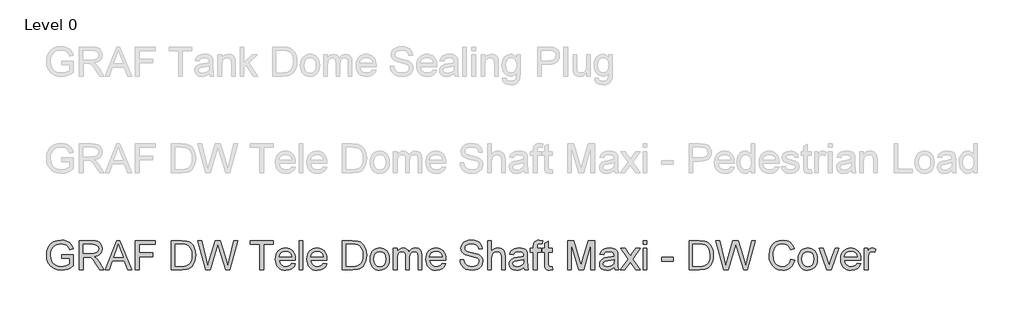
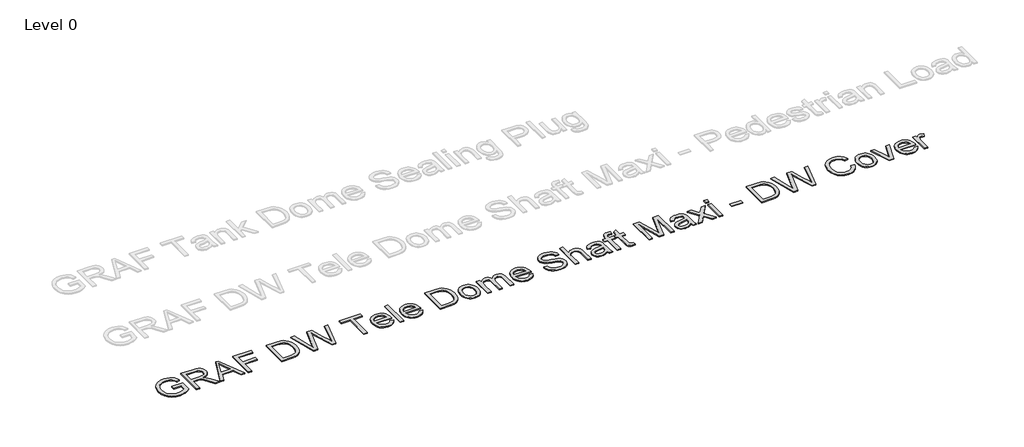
# One storey, part 3 of 25: 1 proxy.
"""IFC4 building model written with IfcOpenShell, lengths in millimetres."""

from ifc_helpers import new_model, si_unit, origin, origin_with_axes, place, context, project, spatial, polyline, outline, extrude, element, save

model = new_model("IFC4")

# Units and contexts
model_context = context("Model", 3, world=origin())
ifc_project = project(units=[si_unit("LENGTHUNIT", "METRE", prefix="MILLI")], contexts=[model_context])

# Site, building, storey
site = spatial("IfcSite", under=ifc_project)
building = spatial("IfcBuilding", under=site)
storey = spatial("IfcBuildingStorey", under=building, Name="Level 0", Elevation=0.0)

# Proxy
placement = place(None, origin())
element("IfcBuildingElementProxy", 1, Name="300mm Arial", ObjectType="300mm Arial", at=placement, inside=storey, context=model_context, shape_type="SweptSolid", body=[
    extrude(outline(polyline([(-15240.9940387, -11083.2545597), (-15240.9940387, -11045.5834434), (-15118.5629107, -11045.5834434), (-15118.5629107, -11158.2289103), (-15148.3153671, -11178.9222726), (-15179.0059225, -11193.7663111), (-15210.5610007, -11202.7058436), (-15242.9070251, -11205.6856877), (-15285.1674693, -11200.949207), (-15323.3628175, -11186.739765), (-15355.0926395, -11163.5540022), (-15377.9565055, -11131.8885595), (-15391.7796715, -11093.9047435), (-15396.3873935, -11051.7638609), (-15391.7980656, -11009.3194757), (-15378.0300819, -10969.8365406), (-15355.6536596, -10936.717964), (-15325.2390156, -10913.3666543), (-15288.1932987, -10899.5158972), (-15245.9236575, -10894.8989782), (-15214.8928112, -10897.5753197), (-15186.9889618, -10905.6043443), (-15163.4904994, -10918.4066377), (-15145.6758138, -10935.4027859), (-15132.4964413, -10957.4113262), (-15122.9039183, -10985.2507962), (-15157.6319786, -10995.0364573), (-15165.3850917, -10975.1800266), (-15174.8120678, -10960.1980323), (-15187.2832674, -10948.9040551), (-15204.169051, -10940.1116754), (-15224.3013932, -10934.4554897), (-15246.5122687, -10932.5700945), (-15272.5123287, -10934.6026425), (-15294.7415982, -10940.7002866), (-15313.1173039, -10950.0996716), (-15327.5566722, -10962.0374423), (-15346.9440533, -10991.0633317), (-15355.7732212, -11019.50061), (-15358.7162772, -11050.2187566), (-15355.175413, -11086.2436009), (-15344.5528204, -11115.8856927), (-15327.1703961, -11138.9334997), (-15303.3500369, -11155.1754898), (-15275.4737787, -11164.804801), (-15245.9236575, -11168.0145714), (-15219.831627, -11165.5957473), (-15194.3833899, -11158.3392749), (-15172.2828791, -11148.3420817), (-15156.234027, -11137.701095), (-15156.234027, -11083.2545597), (-15240.9940387, -11083.2545597)])), origin_with_axes(), (0.0, 0.0, 1.0), 10.0),
    extrude(outline(polyline([(-15057.3473467, -11200.9767982), (-15057.3473467, -10899.6078677), (-14927.4850024, -10899.6078677), (-14892.5821982, -10901.6404158), (-14867.1891434, -10907.7380598), (-14848.6294968, -10918.9952489), (-14834.2269167, -10936.5064318), (-14824.9838815, -10958.2206666), (-14821.9028698, -10982.087011), (-14827.0072325, -11011.7750881), (-14842.3203206, -11036.3863935), (-14853.9200997, -11046.4157764), (-14868.3019865, -11054.4310054), (-14905.4120827, -11064.4190016), (-14884.0013506, -11080.532233), (-14853.467145, -11119.3069952), (-14803.2144645, -11200.9767982), (-14846.9924219, -11200.9767982), (-14886.2086426, -11138.5104354), (-14914.5355562, -11097.1604991), (-14934.4379722, -11077.6259652), (-14952.3538253, -11070.4522663), (-14974.2060158, -11069.1278911), (-15019.6762304, -11069.1278911), (-15019.6762304, -11200.9767982), (-15057.3473467, -11200.9767982)]), holes=[polyline([(-15019.6762304, -11031.4567748), (-14935.3576771, -11031.4567748), (-14911.1418448, -11030.1232026), (-14892.3522719, -11026.1224859), (-14878.2072092, -11019.1879103), (-14867.9249074, -11009.0527613), (-14861.6617165, -10996.7930938), (-14859.5739861, -10983.4849626), (-14863.5563087, -10965.109257), (-14875.5032765, -10950.3020067), (-14896.058683, -10940.5347397), (-14925.8663217, -10937.278984), (-15019.6762304, -10937.278984), (-15019.6762304, -11031.4567748)])]), origin_with_axes(), (0.0, 0.0, 1.0), 10.0),
    extrude(outline(polyline([(-14791.0743586, -11200.9767982), (-14670.7769462, -10899.6078677), (-14638.6976362, -10899.6078677), (-14518.4002238, -11200.9767982), (-14558.2050557, -11200.9767982), (-14592.7123868, -11106.7990074), (-14716.835772, -11106.7990074), (-14751.2695268, -11200.9767982), (-14791.0743586, -11200.9767982)]), holes=[polyline([(-14703.003409, -11069.1278911), (-14606.4711735, -11069.1278911), (-14633.6208647, -10995.0364573), (-14654.7372912, -10937.278984), (-14673.499273, -10988.5617342), (-14703.003409, -11069.1278911)])]), origin_with_axes(), (0.0, 0.0, 1.0), 10.0),
    extrude(outline(polyline([(-14478.1539335, -11200.9767982), (-14478.1539335, -10899.6078677), (-14275.6716834, -10899.6078677), (-14275.6716834, -10937.278984), (-14440.4828172, -10937.278984), (-14440.4828172, -11026.7478853), (-14299.2161311, -11026.7478853), (-14299.2161311, -11064.4190016), (-14440.4828172, -11064.4190016), (-14440.4828172, -11200.9767982), (-14478.1539335, -11200.9767982)])), origin_with_axes(), (0.0, 0.0, 1.0), 10.0),
    extrude(outline(polyline([(-14106.15166, -11200.9767982), (-14106.15166, -10899.6078677), (-14002.1882082, -10899.6078677), (-13948.4038605, -10903.9488753), (-13924.3811662, -10912.3181907), (-13904.1108683, -10925.5067602), (-13883.2703532, -10948.4625967), (-13868.4263147, -10977.0102395), (-13859.5419645, -11010.5978657), (-13856.5805145, -11048.6736522), (-13858.5854714, -11081.0196766), (-13864.600342, -11109.484546), (-13873.7606037, -11133.7187724), (-13885.2017337, -11153.372868), (-13898.3719091, -11168.8882911), (-13912.719307, -11180.7065002), (-13929.1912233, -11189.4712888), (-13948.7349543, -11195.8264502), (-13997.185013, -11200.9767982), (-14106.15166, -11200.9767982)]), holes=[polyline([(-14068.4805437, -11163.3056819), (-14001.8203262, -11163.3056819), (-13974.2475706, -11161.9445185), (-13953.3334792, -11157.8610283), (-13937.5513416, -11151.2943347), (-13925.3744476, -11142.4835609), (-13912.2870456, -11126.1771915), (-13902.4553993, -11105.069962), (-13896.3025729, -11079.069902), (-13894.2516308, -11048.085041), (-13898.2707416, -11007.0294103), (-13910.328074, -10976.7159339), (-13928.1427596, -10955.893813), (-13949.4339301, -10943.3122488), (-13971.1021796, -10938.7873002), (-14002.8503958, -10937.278984), (-14068.4805437, -10937.278984), (-14068.4805437, -11163.3056819)])]), origin_with_axes(), (0.0, 0.0, 1.0), 10.0),
    extrude(outline(polyline([(-13750.8512291, -11200.9767982), (-13833.0360668, -10899.6078677), (-13794.1877281, -10899.6078677), (-13746.5102215, -11097.6755339), (-13731.7949417, -11158.8175215), (-13716.0495923, -11104.7388682), (-13656.3055563, -10899.6078677), (-13600.3139166, -10899.6078677), (-13556.9038412, -11048.3057702), (-13538.3074064, -11103.4880695), (-13524.603802, -11158.8175215), (-13510.3299806, -11099.4413675), (-13462.2110157, -10899.6078677), (-13423.362677, -10899.6078677), (-13505.6210911, -11200.9767982), (-13545.8673814, -11200.9767982), (-13618.1194052, -10968.4753772), (-13628.1993719, -10936.0281853), (-13639.5301373, -10975.0972531), (-13705.3810145, -11200.9767982), (-13750.8512291, -11200.9767982)])), origin_with_axes(), (0.0, 0.0, 1.0), 10.0),
    extrude(outline(polyline([(-13192.6270896, -11200.9767982), (-13192.6270896, -10937.278984), (-13291.5137699, -10937.278984), (-13291.5137699, -10899.6078677), (-13056.069293, -10899.6078677), (-13056.069293, -10937.278984), (-13154.9559733, -10937.278984), (-13154.9559733, -11200.9767982), (-13192.6270896, -11200.9767982)])), origin_with_axes(), (0.0, 0.0, 1.0), 10.0),
    extrude(outline(polyline([(-12863.4462803, -11135.0523446), (-12826.510928, -11139.7612342), (-12839.8190592, -11167.5915071), (-12861.0550473, -11188.3952339), (-12889.7406459, -11201.3630743), (-12925.3976083, -11205.6856877), (-12948.7719106, -11203.8209859), (-12969.59863, -11198.2268803), (-12987.8777667, -11188.9033709), (-13003.6093205, -11175.8504579), (-13016.2598626, -11159.4314246), (-13025.2959641, -11140.0095545), (-13030.717625, -11117.5848477), (-13032.5248453, -11092.157304), (-13030.6992309, -11065.8675369), (-13025.2223877, -11042.6955698), (-13016.0943157, -11022.6414025), (-13003.3150149, -11005.7050351), (-12987.6248478, -10992.2497512), (-12969.7641769, -10982.638834), (-12949.7330023, -10976.8722838), (-12927.5313239, -10974.9501003), (-12906.0447161, -10976.8676852), (-12886.613649, -10982.6204399), (-12869.2381225, -10992.2083644), (-12853.9181366, -11005.6314587), (-12841.4124481, -11022.5310379), (-12832.4798134, -11042.548417), (-12827.1202325, -11065.6835959), (-12825.3337056, -11091.9365748), (-12825.5544348, -11102.0901179), (-12994.853729, -11102.0901179), (-12988.3330206, -11130.2882728), (-12973.1854795, -11151.0184232), (-12951.3240919, -11163.7655344), (-12924.6618443, -11168.0145714), (-12904.6122756, -11166.0464027), (-12887.726492, -11160.1418967), (-12874.0044936, -11149.9331713), (-12863.4462803, -11135.0523446)]), holes=[polyline([(-12994.853729, -11064.4190016), (-12863.0048219, -11064.4190016), (-12868.0999875, -11044.5165856), (-12878.0879837, -11030.2795524), (-12900.0505388, -11017.0358006), (-12927.6784767, -11012.6212166), (-12953.0715314, -11016.1436868), (-12974.0683963, -11026.7110971), (-12988.6641144, -11043.1830134), (-12994.853729, -11064.4190016)])]), origin_with_axes(), (0.0, 0.0, 1.0), 10.0),
    extrude(outline(polyline([(-12787.6625893, -11200.9767982), (-12787.6625893, -10899.6078677), (-12749.991473, -10899.6078677), (-12749.991473, -11200.9767982), (-12787.6625893, -11200.9767982)])), origin_with_axes(), (0.0, 0.0, 1.0), 10.0),
    extrude(outline(polyline([(-12538.5329022, -11135.0523446), (-12501.5975499, -11139.7612342), (-12514.905681, -11167.5915071), (-12536.1416692, -11188.3952339), (-12564.8272678, -11201.3630743), (-12600.4842302, -11205.6856877), (-12623.8585324, -11203.8209859), (-12644.6852519, -11198.2268803), (-12662.9643885, -11188.9033709), (-12678.6959423, -11175.8504579), (-12691.3464844, -11159.4314246), (-12700.3825859, -11140.0095545), (-12705.8042468, -11117.5848477), (-12707.6114672, -11092.157304), (-12705.7858527, -11065.8675369), (-12700.3090095, -11042.6955698), (-12691.1809375, -11022.6414025), (-12678.4016367, -11005.7050351), (-12662.7114696, -10992.2497512), (-12644.8507988, -10982.638834), (-12624.8196241, -10976.8722838), (-12602.6179457, -10974.9501003), (-12581.1313379, -10976.8676852), (-12561.7002708, -10982.6204399), (-12544.3247443, -10992.2083644), (-12529.0047585, -11005.6314587), (-12516.4990699, -11022.5310379), (-12507.5664352, -11042.548417), (-12502.2068544, -11065.6835959), (-12500.4203275, -11091.9365748), (-12500.6410567, -11102.0901179), (-12669.9403508, -11102.0901179), (-12663.4196425, -11130.2882728), (-12648.2721013, -11151.0184232), (-12626.4107138, -11163.7655344), (-12599.7484662, -11168.0145714), (-12579.6988974, -11166.0464027), (-12562.8131138, -11160.1418967), (-12549.0911154, -11149.9331713), (-12538.5329022, -11135.0523446)]), holes=[polyline([(-12669.9403508, -11064.4190016), (-12538.0914438, -11064.4190016), (-12543.1866094, -11044.5165856), (-12553.1746056, -11030.2795524), (-12575.1371607, -11017.0358006), (-12602.7650985, -11012.6212166), (-12628.1581532, -11016.1436868), (-12649.1550181, -11026.7110971), (-12663.7507363, -11043.1830134), (-12669.9403508, -11064.4190016)])]), origin_with_axes(), (0.0, 0.0, 1.0), 10.0),
    extrude(outline(polyline([(-12340.3180832, -11200.9767982), (-12340.3180832, -10899.6078677), (-12236.3546313, -10899.6078677), (-12182.5702836, -10903.9488753), (-12158.5475893, -10912.3181907), (-12138.2772914, -10925.5067602), (-12117.4367764, -10948.4625967), (-12102.5927379, -10977.0102395), (-12093.7083877, -11010.5978657), (-12090.7469376, -11048.6736522), (-12092.7518945, -11081.0196766), (-12098.7667651, -11109.484546), (-12107.9270268, -11133.7187724), (-12119.3681569, -11153.372868), (-12132.5383323, -11168.8882911), (-12146.8857301, -11180.7065002), (-12163.3576464, -11189.4712888), (-12182.9013774, -11195.8264502), (-12231.3514362, -11200.9767982), (-12340.3180832, -11200.9767982)]), holes=[polyline([(-12302.6469669, -11163.3056819), (-12235.9867493, -11163.3056819), (-12208.4139938, -11161.9445185), (-12187.4999024, -11157.8610283), (-12171.7177648, -11151.2943347), (-12159.5408707, -11142.4835609), (-12146.4534688, -11126.1771915), (-12136.6218224, -11105.069962), (-12130.4689961, -11079.069902), (-12128.4180539, -11048.085041), (-12132.4371647, -11007.0294103), (-12144.4944971, -10976.7159339), (-12162.3091827, -10955.893813), (-12183.6003532, -10943.3122488), (-12205.2686027, -10938.7873002), (-12237.0168189, -10937.278984), (-12302.6469669, -10937.278984), (-12302.6469669, -11163.3056819)])]), origin_with_axes(), (0.0, 0.0, 1.0), 10.0),
    extrude(outline(polyline([(-12053.0758213, -11090.317894), (-12051.0386748, -11061.6552881), (-12044.9272351, -11036.9566106), (-12034.7415024, -11016.2218617), (-12020.4814766, -10999.4510412), (-12006.1248817, -10988.7318796), (-11990.2783648, -10981.0753356), (-11972.9419257, -10976.4814091), (-11954.1155646, -10974.9501003), (-11933.3325312, -10976.8148022), (-11914.540659, -10982.4089078), (-11897.7399481, -10991.7324171), (-11882.9303986, -11004.7853302), (-11870.8431758, -11021.1261885), (-11862.2094452, -11040.3135338), (-11857.0292068, -11062.3473661), (-11855.3024607, -11087.2276853), (-11858.3558813, -11125.2850777), (-11867.516143, -11154.2557848), (-11882.5165313, -11175.9516255), (-11903.0903319, -11192.1844185), (-11927.5268934, -11202.3103704), (-11954.1155646, -11205.6856877), (-11975.2021007, -11203.8278836), (-11994.1687169, -11198.2544714), (-12011.015413, -11188.965451), (-12025.7421891, -11175.9608225), (-12037.7006532, -11159.461315), (-12046.2424133, -11139.6876578), (-12051.3674693, -11116.6398508), (-12053.0758213, -11090.317894)]), holes=[polyline([(-12015.404705, -11090.2443176), (-12011.0453034, -11124.3377815), (-11997.9670985, -11148.6271903), (-11978.2854117, -11163.1677261), (-11954.1155646, -11168.0145714), (-11930.0560821, -11163.140135), (-11910.4111836, -11148.5168257), (-11897.3329787, -11123.9055202), (-11892.973577, -11089.0670952), (-11897.3605698, -11055.9669127), (-11910.5215482, -11032.0085978), (-11930.1940379, -11017.4680619), (-11954.1155646, -11012.6212166), (-11978.2854117, -11017.4496678), (-11997.9670985, -11031.9350214), (-12011.0453034, -11056.1692478), (-12015.404705, -11090.2443176)])]), origin_with_axes(), (0.0, 0.0, 1.0), 10.0),
    extrude(outline(polyline([(-11812.9224549, -11200.9767982), (-11812.9224549, -10979.6589899), (-11775.2513386, -10979.6589899), (-11775.2513386, -11016.0793074), (-11763.9205731, -10999.3498737), (-11749.3524461, -10986.2440776), (-11732.0435982, -10977.7735947), (-11712.4906702, -10974.9501003), (-11691.5397906, -10977.828777), (-11674.7459775, -10986.4648068), (-11662.2012015, -11000.2879728), (-11653.997433, -11018.7280578), (-11640.2662375, -10999.5752014), (-11624.6036615, -10985.8945897), (-11607.0097051, -10977.6862227), (-11587.4843682, -10974.9501003), (-11559.1666517, -10979.50264), (-11538.2249691, -10993.1602591), (-11525.2847199, -11016.2908395), (-11520.9713035, -11049.2622634), (-11520.9713035, -11200.9767982), (-11558.6424198, -11200.9767982), (-11558.6424198, -11065.4490712), (-11562.1372988, -11033.9951606), (-11567.0485234, -11025.3223425), (-11574.7924394, -11018.5073286), (-11584.7528444, -11014.0927446), (-11596.3135361, -11012.6212166), (-11616.7217898, -11016.3920071), (-11633.359253, -11027.7043784), (-11644.423304, -11047.3308829), (-11648.111321, -11076.0440726), (-11648.111321, -11200.9767982), (-11685.7824373, -11200.9767982), (-11685.7824373, -11061.2552164), (-11687.9621382, -11039.9548489), (-11694.5012406, -11024.7613225), (-11706.00675, -11015.6562431), (-11723.0856717, -11012.6212166), (-11737.5986164, -11014.6445676), (-11750.9711269, -11020.7146205), (-11762.0075867, -11030.6842226), (-11769.5123794, -11044.406221), (-11773.8165988, -11063.4441143), (-11775.2513386, -11089.3614008), (-11775.2513386, -11200.9767982), (-11812.9224549, -11200.9767982)])), origin_with_axes(), (0.0, 0.0, 1.0), 10.0),
    extrude(outline(polyline([(-11309.5127327, -11135.0523446), (-11272.5773804, -11139.7612342), (-11285.8855115, -11167.5915071), (-11307.1214997, -11188.3952339), (-11335.8070983, -11201.3630743), (-11371.4640607, -11205.6856877), (-11394.8383629, -11203.8209859), (-11415.6650824, -11198.2268803), (-11433.944219, -11188.9033709), (-11449.6757728, -11175.8504579), (-11462.326315, -11159.4314246), (-11471.3624165, -11140.0095545), (-11476.7840774, -11117.5848477), (-11478.5912977, -11092.157304), (-11476.7656833, -11065.8675369), (-11471.2888401, -11042.6955698), (-11462.1607681, -11022.6414025), (-11449.3814672, -11005.7050351), (-11433.6913002, -10992.2497512), (-11415.8306293, -10982.638834), (-11395.7994546, -10976.8722838), (-11373.5977762, -10974.9501003), (-11352.1111685, -10976.8676852), (-11332.6801013, -10982.6204399), (-11315.3045748, -10992.2083644), (-11299.984589, -11005.6314587), (-11287.4789004, -11022.5310379), (-11278.5462657, -11042.548417), (-11273.1866849, -11065.6835959), (-11271.400158, -11091.9365748), (-11271.6208872, -11102.0901179), (-11440.9201814, -11102.0901179), (-11434.399473, -11130.2882728), (-11419.2519318, -11151.0184232), (-11397.3905443, -11163.7655344), (-11370.7282967, -11168.0145714), (-11350.6787279, -11166.0464027), (-11333.7929444, -11160.1418967), (-11320.0709459, -11149.9331713), (-11309.5127327, -11135.0523446)]), holes=[polyline([(-11440.9201814, -11064.4190016), (-11309.0712743, -11064.4190016), (-11314.1664399, -11044.5165856), (-11324.1544361, -11030.2795524), (-11346.1169912, -11017.0358006), (-11373.744929, -11012.6212166), (-11399.1379838, -11016.1436868), (-11420.1348486, -11026.7110971), (-11434.7305668, -11043.1830134), (-11440.9201814, -11064.4190016)])]), origin_with_axes(), (0.0, 0.0, 1.0), 10.0),
    extrude(outline(polyline([(-11125.4245823, -11097.3812283), (-11087.753466, -11097.3812283), (-11083.4308525, -11118.2861227), (-11075.6133601, -11135.0891328), (-11063.418072, -11148.4248552), (-11045.9620713, -11158.9278861), (-11024.6249156, -11165.7429001), (-11000.7861623, -11168.0145714), (-10979.7984945, -11166.2947231), (-10961.4227888, -11161.1351781), (-10946.5327651, -11152.9681978), (-10936.002143, -11142.2260435), (-10929.738952, -11129.8927997), (-10927.6512217, -11116.9525505), (-10929.2147202, -11104.3433951), (-10933.9052156, -11093.444891), (-10943.4333593, -11084.1466736), (-10959.5098025, -11076.3383782), (-11014.361008, -11061.9541922), (-11050.3674582, -11052.4352456), (-11073.4060682, -11043.3761514), (-11092.1588529, -11030.7026167), (-11105.44859, -11015.3435434), (-11113.3672499, -10997.6300253), (-11116.0068032, -10977.8931563), (-11112.7418505, -10955.8294336), (-11102.9469924, -10935.2556331), (-11086.8797462, -10917.8180265), (-11064.7976295, -10905.1628859), (-11038.2917317, -10897.4649551), (-11008.9531426, -10894.8989782), (-10977.1681382, -10897.5845168), (-10949.3562594, -10905.6411325), (-10926.5107875, -10918.9032784), (-10909.6250039, -10937.2054076), (-10898.938032, -10959.407086), (-10894.6889949, -10984.3678794), (-10932.3601112, -10984.3678794), (-10939.2762927, -10961.8902895), (-10953.6972669, -10945.6666935), (-10976.2300392, -10935.8442443), (-11007.4816146, -10932.5700945), (-11039.4689541, -10935.8074561), (-11061.4131151, -10945.5195407), (-11074.105044, -10959.8117562), (-11078.3356869, -10976.7895103), (-11075.3374487, -10991.2656668), (-11066.3427339, -11002.909132), (-11045.0791545, -11013.3201924), (-11004.8328643, -11023.9519821), (-10963.298987, -11034.0503429), (-10938.1726467, -11042.8611167), (-10916.6975353, -11056.5279328), (-10901.715541, -11073.3953223), (-10892.9139643, -11093.2793441), (-10889.9801054, -11115.9960573), (-10893.3554227, -11139.2186082), (-10903.4813746, -11161.0616017), (-10919.9440939, -11179.8603717), (-10942.3297133, -11193.9502521), (-10969.2494783, -11202.7518288), (-10999.3146343, -11205.6856877), (-11036.2223955, -11202.5219026), (-11066.6002513, -11193.0305471), (-11090.7976895, -11177.1748331), (-11109.1641981, -11154.9179724), (-11120.9548161, -11127.8050693), (-11125.4245823, -11097.3812283)])), origin_with_axes(), (0.0, 0.0, 1.0), 10.0),
    extrude(outline(polyline([(-10838.1823205, -11200.9767982), (-10838.1823205, -10899.6078677), (-10800.5112042, -10899.6078677), (-10800.5112042, -11010.4139247), (-10786.6742426, -10994.8985015), (-10771.1358268, -10983.8160564), (-10753.8959568, -10977.1665894), (-10734.9546326, -10974.9501003), (-10712.2011312, -10977.3689245), (-10692.6482032, -10984.6253968), (-10677.2523417, -10996.1493003), (-10666.9700399, -11011.3704179), (-10661.1758985, -11032.2845093), (-10659.244518, -11060.8873344), (-10659.244518, -11200.9767982), (-10696.9156343, -11200.9767982), (-10696.9156343, -11064.7868836), (-10699.9138726, -11041.2056477), (-10708.9085874, -11025.0556281), (-10723.403138, -11015.7298195), (-10742.9008837, -11012.6212166), (-10758.8209771, -11014.718144), (-10773.7661831, -11021.0089261), (-10786.1454122, -11030.8865577), (-10794.3675748, -11043.7440334), (-10798.9752968, -11060.8321521), (-10800.5112042, -11083.4017125), (-10800.5112042, -11200.9767982), (-10838.1823205, -11200.9767982)])), origin_with_axes(), (0.0, 0.0, 1.0), 10.0),
    extrude(outline(polyline([(-10466.1800469, -11172.7234609), (-10484.1786736, -11188.1561106), (-10502.7107291, -11198.2544714), (-10522.1992778, -11203.8278836), (-10543.0673839, -11205.6856877), (-10574.5488857, -11201.2159215), (-10597.7714366, -11187.8066228), (-10612.0912433, -11167.4443543), (-10616.8645122, -11142.1156789), (-10615.0618904, -11126.4990883), (-10609.6540251, -11112.3172373), (-10601.3123008, -11100.1771315), (-10590.7081023, -11090.685776), (-10564.3309633, -11078.324941), (-10531.7366185, -11072.6595583), (-10493.2193736, -11066.6998699), (-10466.4007761, -11059.710112), (-10466.1800469, -11051.3224025), (-10468.773615, -11034.5101954), (-10476.5543192, -11023.5105237), (-10493.9551376, -11015.3435434), (-10518.1985611, -11012.6212166), (-10540.6393628, -11014.4330355), (-10556.3111358, -11019.868492), (-10566.9981077, -11029.9208675), (-10574.4845063, -11045.5834434), (-10612.1556226, -11040.8745539), (-10605.6165202, -11020.2731621), (-10595.8584502, -11004.0863544), (-10581.9709049, -10991.7071252), (-10563.0433763, -10982.5284694), (-10539.8944017, -10976.8446926), (-10513.3425187, -10974.9501003), (-10487.8758876, -10976.6239634), (-10467.6883631, -10981.6455527), (-10452.4672456, -10989.1963306), (-10441.8998353, -10998.4577598), (-10434.8916832, -11009.9080869), (-10430.3483406, -11024.0255585), (-10428.5089306, -11056.9877853), (-10428.5089306, -11103.8559515), (-10426.5959443, -11169.3021584), (-10419.0911516, -11200.9767982), (-10456.7622679, -11200.9767982), (-10466.1800469, -11172.7234609)]), holes=[polyline([(-10466.1800469, -11097.3812283), (-10526.9541525, -11108.932723), (-10559.3645563, -11115.0395641), (-10574.0430479, -11124.972378), (-10579.1933959, -11139.4669286), (-10576.3882956, -11150.6689353), (-10567.972995, -11159.8475911), (-10554.1314349, -11165.9728263), (-10535.0475564, -11168.0145714), (-10514.8140467, -11165.7612942), (-10496.9349817, -11159.0014625), (-10482.4404311, -11149.0410575), (-10472.3604645, -11137.1860602), (-10467.8906982, -11124.972378), (-10466.4007761, -11108.0498062), (-10466.1800469, -11097.3812283)])]), origin_with_axes(), (0.0, 0.0, 1.0), 10.0),
    extrude(outline(polyline([(-10367.2933666, -11200.9767982), (-10367.2933666, -11017.3301062), (-10400.2555934, -11017.3301062), (-10400.2555934, -10979.6589899), (-10367.2933666, -10979.6589899), (-10367.2933666, -10957.365341), (-10363.3202411, -10925.9482186), (-10355.741872, -10913.4218366), (-10344.0432245, -10903.5074169), (-10327.6724758, -10897.0510879), (-10306.0778026, -10894.8989782), (-10271.7176243, -10899.0192565), (-10277.2358542, -10934.3359281), (-10298.9408919, -10932.5700945), (-10313.2606986, -10934.133593), (-10322.6692806, -10938.8240884), (-10327.8840079, -10947.782015), (-10329.6222503, -10962.1478069), (-10329.6222503, -10979.6589899), (-10287.2422445, -10979.6589899), (-10287.2422445, -11017.3301062), (-10329.6222503, -11017.3301062), (-10329.6222503, -11200.9767982), (-10367.2933666, -11200.9767982)])), origin_with_axes(), (0.0, 0.0, 1.0), 10.0),
    extrude(outline(polyline([(-10174.2288956, -11169.5596758), (-10169.520006, -11202.0804442), (-10197.6997669, -11205.6856877), (-10215.7811669, -11204.1221892), (-10229.264042, -11199.4316938), (-10238.7921857, -11192.2028126), (-10245.0093914, -11183.0241568), (-10248.430694, -11167.2604133), (-10249.5711282, -11140.276269), (-10249.5711282, -11017.3301062), (-10277.8244654, -11017.3301062), (-10277.8244654, -10979.6589899), (-10249.5711282, -10979.6589899), (-10249.5711282, -10925.8746422), (-10211.9000119, -10903.7281461), (-10211.9000119, -10979.6589899), (-10174.2288956, -10979.6589899), (-10174.2288956, -11017.3301062), (-10211.9000119, -11017.3301062), (-10211.9000119, -11139.172623), (-10209.9134491, -11158.5967923), (-10203.4755142, -11165.4761856), (-10190.6364325, -11168.0145714), (-10174.2288956, -11169.5596758)])), origin_with_axes(), (0.0, 0.0, 1.0), 10.0),
    extrude(outline(polyline([(-10014.1266513, -11200.9767982), (-10014.1266513, -10899.6078677), (-9949.3058437, -10899.6078677), (-9887.6488213, -11112.0229317), (-9875.2144099, -11156.3895004), (-9861.7499289, -11108.3441118), (-9801.1229761, -10899.6078677), (-9736.3021685, -10899.6078677), (-9736.3021685, -11200.9767982), (-9773.9732848, -11200.9767982), (-9773.9732848, -10937.278984), (-9849.6833994, -11200.9767982), (-9900.7454204, -11200.9767982), (-9976.455535, -10937.278984), (-9976.455535, -11200.9767982), (-10014.1266513, -11200.9767982)])), origin_with_axes(), (0.0, 0.0, 1.0), 10.0),
    extrude(outline(polyline([(-9533.8199184, -11172.7234609), (-9551.818545, -11188.1561106), (-9570.3506005, -11198.2544714), (-9589.8391492, -11203.8278836), (-9610.7072554, -11205.6856877), (-9642.1887571, -11201.2159215), (-9665.411308, -11187.8066228), (-9679.7311147, -11167.4443543), (-9684.5043836, -11142.1156789), (-9682.7017618, -11126.4990883), (-9677.2938965, -11112.3172373), (-9668.9521722, -11100.1771315), (-9658.3479737, -11090.685776), (-9631.9708347, -11078.324941), (-9599.3764899, -11072.6595583), (-9560.859245, -11066.6998699), (-9534.0406476, -11059.710112), (-9533.8199184, -11051.3224025), (-9536.4134864, -11034.5101954), (-9544.1941906, -11023.5105237), (-9561.595009, -11015.3435434), (-9585.8384325, -11012.6212166), (-9608.2792342, -11014.4330355), (-9623.9510072, -11019.868492), (-9634.6379791, -11029.9208675), (-9642.1243777, -11045.5834434), (-9679.795494, -11040.8745539), (-9673.2563916, -11020.2731621), (-9663.4983217, -11004.0863544), (-9649.6107763, -10991.7071252), (-9630.6832477, -10982.5284694), (-9607.5342731, -10976.8446926), (-9580.9823901, -10974.9501003), (-9555.515759, -10976.6239634), (-9535.3282345, -10981.6455527), (-9520.107117, -10989.1963306), (-9509.5397067, -10998.4577598), (-9502.5315547, -11009.9080869), (-9497.988212, -11024.0255585), (-9496.1488021, -11056.9877853), (-9496.1488021, -11103.8559515), (-9494.2358157, -11169.3021584), (-9486.731023, -11200.9767982), (-9524.4021393, -11200.9767982), (-9533.8199184, -11172.7234609)]), holes=[polyline([(-9533.8199184, -11097.3812283), (-9594.594024, -11108.932723), (-9627.0044277, -11115.0395641), (-9641.6829193, -11124.972378), (-9646.8332673, -11139.4669286), (-9644.0281671, -11150.6689353), (-9635.6128664, -11159.8475911), (-9621.7713064, -11165.9728263), (-9602.6874279, -11168.0145714), (-9582.4539181, -11165.7612942), (-9564.5748532, -11159.0014625), (-9550.0803025, -11149.0410575), (-9540.0003359, -11137.1860602), (-9535.5305696, -11124.972378), (-9534.0406476, -11108.0498062), (-9533.8199184, -11097.3812283)])]), origin_with_axes(), (0.0, 0.0, 1.0), 10.0),
    extrude(outline(polyline([(-9467.8954648, -11200.9767982), (-9387.4028843, -11089.7292828), (-9463.1865753, -10979.6589899), (-9417.8635135, -10979.6589899), (-9381.2960432, -11032.6339972), (-9364.2263186, -11057.6499729), (-9349.4374624, -11037.1957339), (-9307.7932205, -10979.6589899), (-9262.4701587, -10979.6589899), (-9342.0798225, -11089.7292828), (-9265.4132147, -11200.9767982), (-9310.7362765, -11200.9767982), (-9356.8686787, -11134.0958515), (-9365.3299646, -11121.8821692), (-9422.572403, -11200.9767982), (-9467.8954648, -11200.9767982)])), origin_with_axes(), (0.0, 0.0, 1.0), 10.0),
    extrude(outline(polyline([(-9232.4509879, -11200.9767982), (-9232.4509879, -10979.6589899), (-9194.7798716, -10979.6589899), (-9194.7798716, -11200.9767982), (-9232.4509879, -11200.9767982)])), origin_with_axes(), (0.0, 0.0, 1.0), 10.0),
    extrude(outline(polyline([(-9232.4509879, -10937.278984), (-9232.4509879, -10899.6078677), (-9194.7798716, -10899.6078677), (-9194.7798716, -10937.278984), (-9232.4509879, -10937.278984)])), origin_with_axes(), (0.0, 0.0, 1.0), 10.0),
    extrude(outline(polyline([(-9039.3865168, -11111.507897), (-9039.3865168, -11073.8367806), (-8921.6642784, -11073.8367806), (-8921.6642784, -11111.507897), (-9039.3865168, -11111.507897)])), origin_with_axes(), (0.0, 0.0, 1.0), 10.0),
    extrude(outline(polyline([(-8756.8531445, -11200.9767982), (-8756.8531445, -10899.6078677), (-8652.8896927, -10899.6078677), (-8599.105345, -10903.9488753), (-8575.0826507, -10912.3181907), (-8554.8123528, -10925.5067602), (-8533.9718378, -10948.4625967), (-8519.1277993, -10977.0102395), (-8510.2434491, -11010.5978657), (-8507.281999, -11048.6736522), (-8509.2869559, -11081.0196766), (-8515.3018265, -11109.484546), (-8524.4620882, -11133.7187724), (-8535.9032182, -11153.372868), (-8549.0733937, -11168.8882911), (-8563.4207915, -11180.7065002), (-8579.8927078, -11189.4712888), (-8599.4364388, -11195.8264502), (-8647.8864976, -11200.9767982), (-8756.8531445, -11200.9767982)]), holes=[polyline([(-8719.1820282, -11163.3056819), (-8652.5218107, -11163.3056819), (-8624.9490552, -11161.9445185), (-8604.0349638, -11157.8610283), (-8588.2528262, -11151.2943347), (-8576.0759321, -11142.4835609), (-8562.9885301, -11126.1771915), (-8553.1568838, -11105.069962), (-8547.0040574, -11079.069902), (-8544.9531153, -11048.085041), (-8548.9722261, -11007.0294103), (-8561.0295585, -10976.7159339), (-8578.8442441, -10955.893813), (-8600.1354146, -10943.3122488), (-8621.8036641, -10938.7873002), (-8653.5518803, -10937.278984), (-8719.1820282, -10937.278984), (-8719.1820282, -11163.3056819)])]), origin_with_axes(), (0.0, 0.0, 1.0), 10.0),
    extrude(outline(polyline([(-8401.5527136, -11200.9767982), (-8483.7375513, -10899.6078677), (-8444.8892126, -10899.6078677), (-8397.2117061, -11097.6755339), (-8382.4964263, -11158.8175215), (-8366.7510769, -11104.7388682), (-8307.0070408, -10899.6078677), (-8251.0154012, -10899.6078677), (-8207.6053257, -11048.3057702), (-8189.0088909, -11103.4880695), (-8175.3052866, -11158.8175215), (-8161.0314652, -11099.4413675), (-8112.9125002, -10899.6078677), (-8074.0641615, -10899.6078677), (-8156.3225756, -11200.9767982), (-8196.5688659, -11200.9767982), (-8268.8208897, -10968.4753772), (-8278.9008564, -10936.0281853), (-8290.2316219, -10975.0972531), (-8356.082499, -11200.9767982), (-8401.5527136, -11200.9767982)])), origin_with_axes(), (0.0, 0.0, 1.0), 10.0),
    extrude(outline(polyline([(-7706.7707775, -11093.8495612), (-7669.0996612, -11103.5616459), (-7676.5538701, -11126.9888312), (-7686.4820855, -11147.4591649), (-7698.8843072, -11164.9726472), (-7713.7605354, -11179.5292779), (-7730.7750777, -11190.9727072), (-7749.5922418, -11199.1465853), (-7770.2120276, -11204.0509121), (-7792.6344352, -11205.6856877), (-7836.3296192, -11200.7376749), (-7871.0300884, -11185.8936364), (-7897.6279566, -11161.668607), (-7917.0153378, -11128.5776215), (-7928.851941, -11089.6741005), (-7932.7974754, -11048.0114646), (-7928.3369062, -11004.0679603), (-7914.9551986, -10966.1209325), (-7893.3513284, -10935.3751947), (-7864.2242715, -10913.0355606), (-7829.6801521, -10899.4331238), (-7791.8250948, -10894.8989782), (-7750.5211438, -10900.766696), (-7732.5524076, -10908.1013433), (-7716.3724976, -10918.3698495), (-7702.2481282, -10931.3009016), (-7690.446014, -10946.6231867), (-7673.8085507, -10984.4414558), (-7711.4796671, -10993.4177765), (-7724.5394779, -10965.9461885), (-7742.3817546, -10947.1014333), (-7765.2272265, -10936.2029292), (-7793.2966228, -10932.5700945), (-7825.6518443, -10936.5984023), (-7852.2313184, -10948.6833259), (-7872.4004488, -10967.5556722), (-7885.524639, -10991.9462485), (-7892.725929, -11019.5190041), (-7895.126359, -11047.9378882), (-7892.2844706, -11082.7395249), (-7883.7588054, -11112.8322721), (-7869.2274666, -11137.0664986), (-7848.3685575, -11154.292573), (-7823.3617788, -11164.5840718), (-7796.3868315, -11168.0145714), (-7764.942118, -11163.3424701), (-7738.7397229, -11149.3261661), (-7718.9568686, -11126.1128122), (-7706.7707775, -11093.8495612)])), origin_with_axes(), (0.0, 0.0, 1.0), 10.0),
    extrude(outline(polyline([(-7631.4285449, -11090.317894), (-7629.3913984, -11061.6552881), (-7623.2799587, -11036.9566106), (-7613.094226, -11016.2218617), (-7598.8342001, -10999.4510412), (-7584.4776053, -10988.7318796), (-7568.6310883, -10981.0753356), (-7551.2946493, -10976.4814091), (-7532.4682882, -10974.9501003), (-7511.6852547, -10976.8148022), (-7492.8933826, -10982.4089078), (-7476.0926717, -10991.7324171), (-7461.2831221, -11004.7853302), (-7449.1958993, -11021.1261885), (-7440.5621688, -11040.3135338), (-7435.3819304, -11062.3473661), (-7433.6551843, -11087.2276853), (-7436.7086049, -11125.2850777), (-7445.8688665, -11154.2557848), (-7460.8692549, -11175.9516255), (-7481.4430555, -11192.1844185), (-7505.879617, -11202.3103704), (-7532.4682882, -11205.6856877), (-7553.5548243, -11203.8278836), (-7572.5214404, -11198.2544714), (-7589.3681365, -11188.965451), (-7604.0949127, -11175.9608225), (-7616.0533768, -11159.461315), (-7624.5951368, -11139.6876578), (-7629.7201929, -11116.6398508), (-7631.4285449, -11090.317894)]), holes=[polyline([(-7593.7574286, -11090.2443176), (-7589.398027, -11124.3377815), (-7576.319822, -11148.6271903), (-7556.6381353, -11163.1677261), (-7532.4682882, -11168.0145714), (-7508.4088057, -11163.140135), (-7488.7639072, -11148.5168257), (-7475.6857022, -11123.9055202), (-7471.3263006, -11089.0670952), (-7475.7132934, -11055.9669127), (-7488.8742718, -11032.0085978), (-7508.5467615, -11017.4680619), (-7532.4682882, -11012.6212166), (-7556.6381353, -11017.4496678), (-7576.319822, -11031.9350214), (-7589.398027, -11056.1692478), (-7593.7574286, -11090.2443176)])]), origin_with_axes(), (0.0, 0.0, 1.0), 10.0),
    extrude(outline(polyline([(-7336.975796, -11200.9767982), (-7414.8196261, -10979.6589899), (-7374.9412179, -10979.6589899), (-7327.7787461, -11112.2436609), (-7313.5785011, -11156.8309588), (-7299.6725617, -11114.7452585), (-7252.2157843, -10979.6589899), (-7212.337376, -10979.6589899), (-7289.224713, -11200.9767982), (-7336.975796, -11200.9767982)])), origin_with_axes(), (0.0, 0.0, 1.0), 10.0),
    extrude(outline(polyline([(-7024.4232529, -11135.0523446), (-6987.4879005, -11139.7612342), (-7000.7960317, -11167.5915071), (-7022.0320199, -11188.3952339), (-7050.7176185, -11201.3630743), (-7086.3745808, -11205.6856877), (-7109.7488831, -11203.8209859), (-7130.5756026, -11198.2268803), (-7148.8547392, -11188.9033709), (-7164.586293, -11175.8504579), (-7177.2368351, -11159.4314246), (-7186.2729366, -11140.0095545), (-7191.6945975, -11117.5848477), (-7193.5018178, -11092.157304), (-7191.6762034, -11065.8675369), (-7186.1993602, -11042.6955698), (-7177.0712882, -11022.6414025), (-7164.2919874, -11005.7050351), (-7148.6018203, -10992.2497512), (-7130.7411495, -10982.638834), (-7110.7099748, -10976.8722838), (-7088.5082964, -10974.9501003), (-7067.0216886, -10976.8676852), (-7047.5906215, -10982.6204399), (-7030.215095, -10992.2083644), (-7014.8951092, -11005.6314587), (-7002.3894206, -11022.5310379), (-6993.4567859, -11042.548417), (-6988.0972051, -11065.6835959), (-6986.3106782, -11091.9365748), (-6986.5314074, -11102.0901179), (-7155.8307015, -11102.0901179), (-7149.3099932, -11130.2882728), (-7134.162452, -11151.0184232), (-7112.3010645, -11163.7655344), (-7085.6388169, -11168.0145714), (-7065.5892481, -11166.0464027), (-7048.7034645, -11160.1418967), (-7034.9814661, -11149.9331713), (-7024.4232529, -11135.0523446)]), holes=[polyline([(-7155.8307015, -11064.4190016), (-7023.9817945, -11064.4190016), (-7029.0769601, -11044.5165856), (-7039.0649563, -11030.2795524), (-7061.0275114, -11017.0358006), (-7088.6554492, -11012.6212166), (-7114.0485039, -11016.1436868), (-7135.0453688, -11026.7110971), (-7149.641087, -11043.1830134), (-7155.8307015, -11064.4190016)])]), origin_with_axes(), (0.0, 0.0, 1.0), 10.0),
    extrude(outline(polyline([(-6948.6395619, -11200.9767982), (-6948.6395619, -10979.6589899), (-6915.6773351, -10979.6589899), (-6915.6773351, -11012.4004875), (-6903.500441, -10993.4177765), (-6892.2800402, -10982.2341638), (-6881.0228511, -10976.7711162), (-6868.7355925, -10974.9501003), (-6849.9736107, -10977.8563681), (-6830.9173234, -10986.5751714), (-6843.4988876, -11020.3467385), (-6856.7426395, -11014.5525971), (-6869.9863913, -11012.6212166), (-6881.2343833, -11014.4790207), (-6891.2867588, -11020.052433), (-6899.4077539, -11028.918389), (-6904.8616044, -11040.6538247), (-6909.4417353, -11061.6966748), (-6910.9684455, -11084.6525113), (-6910.9684455, -11200.9767982), (-6948.6395619, -11200.9767982)])), origin_with_axes(), (0.0, 0.0, 1.0), 10.0),
])

save(model, "model.ifc")
